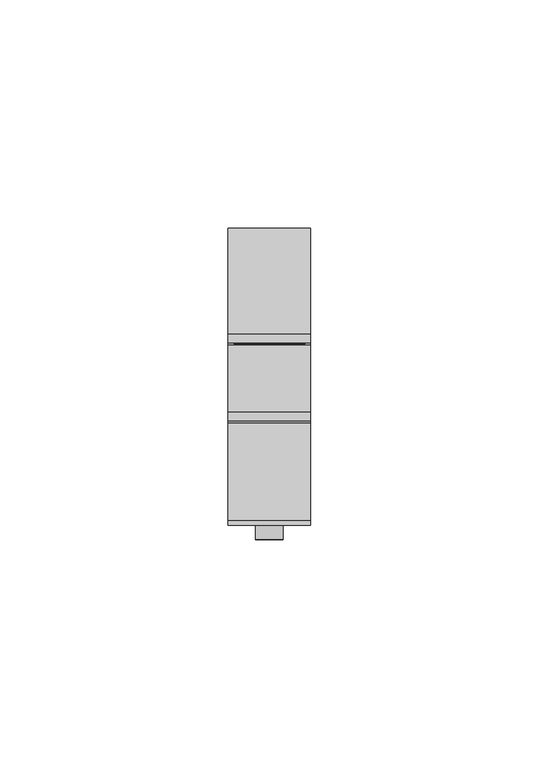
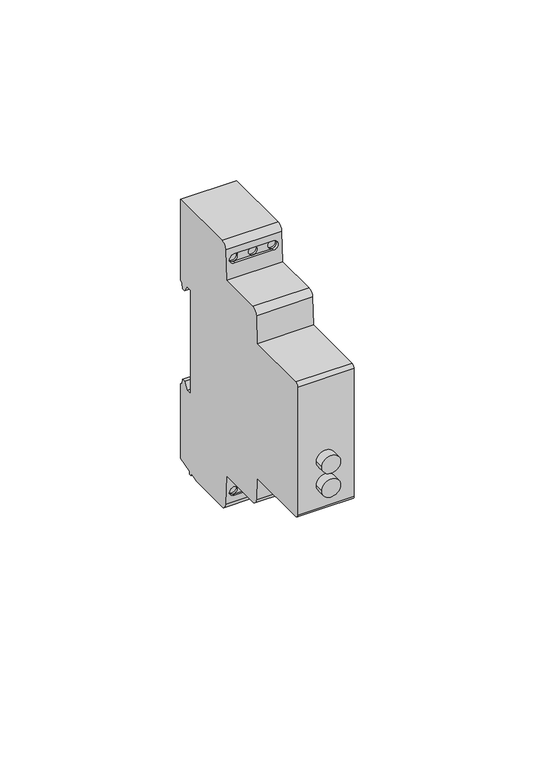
"""IFC4 building model written with IfcOpenShell, lengths in millimetres: proxy geometry, TDM_РЕЛЕ ВРЕМЕНИ НА DIN-РЕЙКУ СЕРИИ РВД : РВД 0.1с/10мин 2х8А 24-230 AC/CD."""

from ifc_helpers import new_model, si_unit, point, frame, frame_2d, origin, place, context, project, spatial, polyline, circle_curve, ellipse_curve, trimmed, segment, composite_curve, outline, extrude, source, transform, mapped, element, save
from ifc_brep_helpers import plane_surface, cylinder_surface, revolved_surface, advanced_brep


def electrical_equipment_de6e29d4(model_context):
    return source(origin(), model_context, "Body", "SolidModel", [
        extrude(outline(composite_curve([segment(trimmed(circle_curve(frame_2d((-6.5006041, 0.0)), 3.0), [point((-6.5006041, -3.0))], [point((-6.5006041, 3.0))], False, "CARTESIAN"), True, "CONTINUOUS"), segment(trimmed(circle_curve(frame_2d((-6.5006041, 0.0)), 3.0), [point((-6.5006041, 3.0))], [point((-6.5006041, -3.0))], False, "CARTESIAN"), True, "CONTINUOUS")], self_intersect=False)), frame((0.0, -30.5593993, 0.0), z_axis=(0.0, 1.0, 0.0), x_axis=(0.0, 0.0, 1.0)), (0.0, 0.0, 1.0), 3.0593993),
        extrude(outline(composite_curve([segment(trimmed(circle_curve(frame_2d((-14.5006041, 0.0)), 3.0), [point((-14.5006041, -3.0))], [point((-14.5006041, 3.0))], False, "CARTESIAN"), True, "CONTINUOUS"), segment(trimmed(circle_curve(frame_2d((-14.5006041, 0.0)), 3.0), [point((-14.5006041, 3.0))], [point((-14.5006041, -3.0))], False, "CARTESIAN"), True, "CONTINUOUS")], self_intersect=False)), frame((0.0, -30.5593993, 0.0), z_axis=(0.0, 1.0, 0.0), x_axis=(0.0, 0.0, 1.0)), (0.0, 0.0, 1.0), 3.0593993),
        extrude(outline(polyline([(7.75, 16.6821204), (7.75, 14.1138713), (-7.75, 14.1138713), (-7.75, 16.6821204), (7.75, 16.6821204)])), frame((0.0, 0.0, -44.0625), z_axis=(0.0, 0.0, 1.0), x_axis=(1.0, 0.0, 0.0)), (0.0, 0.0, 1.0), 87.8126081),
        advanced_brep(
        [(9.0, 31.7632568, 17.7057143), (9.0, 33.7632568, 17.7057143), (9.0, 35.0790621, 15.4266726), (9.0, 36.2042493, 15.4266726), (9.0, 36.5256071, 17.2491835), (9.0, 37.5, 17.8117495), (9.0, 37.5, 45.0), (9.0, 14.5, 45.0), (9.0, 12.5, 43.0), (9.0, 11.9790691, 33.0600462), (9.0, -2.6020709, 33.0600462), (9.0, -4.5993299, 31.1647181), (9.0, -5.0796325, 22.0), (9.0, -26.3777313, 22.0), (9.0, -27.5, 20.8777313), (9.0, -27.5, -22.3875602), (9.0, -26.3875602, -23.5), (9.0, -5.0010208, -23.5), (9.0, -4.5993299, -31.1647181), (9.0, -2.6020709, -33.0600462), (9.0, 11.9790691, -33.0600462), (9.0, 12.5, -43.0), (9.0, 14.5, -45.0), (9.0, 28.5548029, -45.0), (9.0, 31.6319498, -44.175481), (9.0, 31.6319498, -45.0), (9.0, 32.5, -45.0), (9.0, 32.5, -43.9428876), (9.0, 37.5, -42.6031417), (9.0, 37.5, -17.4003208), (9.0, 36.5256071, -16.8377548), (9.0, 36.2042493, -15.0152439), (9.0, 35.0790621, -15.0152439), (9.0, 33.7632568, -17.2942857), (9.0, 31.7632568, -17.2942857), (-9.0, 31.7632568, 17.7057143), (-9.0, 31.7632568, -17.2942857), (-9.0, 33.7632568, -17.2942857), (-9.0, 35.0790621, -15.0152439), (-9.0, 36.2042493, -15.0152439), (-9.0, 36.5256071, -16.8377548), (-9.0, 37.5, -17.4003208), (-9.0, 37.5, -42.6031417), (-9.0, 32.5, -43.9428876), (-9.0, 32.5, -45.0), (-9.0, 31.6319498, -45.0), (-9.0, 31.6319498, -44.175481), (-9.0, 28.5548029, -45.0), (-9.0, 14.5, -45.0), (-9.0, 12.5, -43.0), (-9.0, 11.9790691, -33.0600462), (-9.0, -2.6020709, -33.0600462), (-9.0, -4.5993299, -31.1647181), (-9.0, -5.0010208, -23.5), (-9.0, -26.3875602, -23.5), (-9.0, -27.5, -22.3875602), (-9.0, -27.5, 20.8777313), (-9.0, -26.3777313, 22.0), (-9.0, -5.0796325, 22.0), (-9.0, -4.5993299, 31.1647181), (-9.0, -2.6020709, 33.0600462), (-9.0, 11.9790691, 33.0600462), (-9.0, 12.5, 43.0), (-9.0, 14.5, 45.0), (-9.0, 37.5, 45.0), (-9.0, 37.5, 17.8117495), (-9.0, 36.5256071, 17.2491835), (-9.0, 36.2042493, 15.4266726), (-9.0, 35.0790621, 15.4266726), (-9.0, 33.7632568, 17.7057143), (6.25, 13.0378948, -37.8135116), (0.0239013, 13.0378948, -37.8135116), (1.5239013, 13.0378948, -39.3135116), (0.0239013, 13.0378948, -40.8135116), (6.25, 13.0378948, -40.8135116), (4.75, 13.0378948, -39.3135116), (-6.25, 13.0378948, -37.8135116), (-4.75, 13.0378948, -39.3135116), (-6.25, 13.0378948, -40.8135116), (-1.4760987, 13.0378948, -39.3135116), (6.25, 13.0378948, 40.8135116), (0.0239013, 13.0378948, 40.8135116), (1.5239013, 13.0378948, 39.3135116), (0.0239013, 13.0378948, 37.8135116), (6.25, 13.0378948, 37.8135116), (4.75, 13.0378948, 39.3135116), (-6.25, 13.0378948, 40.8135116), (-4.75, 13.0378948, 39.3135116), (-6.25, 13.0378948, 37.8135116), (-1.4760987, 13.0378948, 39.3135116), (6.25, 12.2281877, 37.8135116), (0.0239013, 12.2281877, 37.8135116), (-6.25, 12.2281877, 37.8135116), (-7.75, 12.3067993, 39.3135116), (-6.25, 12.385411, 40.8135116), (0.0239013, 12.385411, 40.8135116), (6.25, 12.385411, 40.8135116), (7.75, 12.3067993, 39.3135116), (0.0239013, 12.2281877, -37.8135116), (6.25, 12.2281877, -37.8135116), (7.75, 12.3067993, -39.3135116), (6.25, 12.385411, -40.8135116), (0.0239013, 12.385411, -40.8135116), (-6.25, 12.385411, -40.8135116), (-7.75, 12.3067993, -39.3135116), (-6.25, 12.2281877, -37.8135116), (-7.75, 13.0378948, -39.3135116), (7.75, 13.0378948, -39.3135116), (7.75, 13.0378948, 39.3135116), (-7.75, 13.0378948, 39.3135116), (-4.75, 15.2465164, -39.3135116), (-7.75, 15.2465164, -39.3135116), (1.5239013, 15.2465164, -39.3135116), (-1.4760987, 15.2465164, -39.3135116), (4.75, 15.2465164, -39.3135116), (7.75, 15.2465164, -39.3135116), (-4.75, 15.2465164, 39.3135116), (-7.75, 15.2465164, 39.3135116), (1.5239013, 15.2465164, 39.3135116), (-1.4760987, 15.2465164, 39.3135116), (4.75, 15.2465164, 39.3135116), (7.75, 15.2465164, 39.3135116)],
        [
            (0, 1),
            (1, 2),
            (2, 3),
            (3, 4),
            (4, 5),
            (5, 6),
            (6, 7),
            (7, 8, circle_curve(frame((9.0, 14.5, 43.0), z_axis=(1.0, 0.0, 0.0), x_axis=(0.0, -1.0, 0.0)), 2.0)),
            (8, 9),
            (9, 10),
            (10, 11, circle_curve(frame((9.0, -2.6020709, 31.0600462), z_axis=(1.0, 0.0, 0.0), x_axis=(0.0, -1.0, 0.0)), 2.0)),
            (11, 12),
            (12, 13),
            (13, 14, circle_curve(frame((9.0, -26.3777313, 20.8777313), z_axis=(1.0, 0.0, 0.0), x_axis=(0.0, -1.0, 0.0)), 1.1222687)),
            (14, 15),
            (15, 16, circle_curve(frame((9.0, -26.3875602, -22.3875602), z_axis=(1.0, 0.0, 0.0), x_axis=(0.0, -1.0, 0.0)), 1.1124398)),
            (16, 17),
            (17, 18),
            (18, 19, circle_curve(frame((9.0, -2.6020709, -31.0600462), z_axis=(1.0, 0.0, 0.0), x_axis=(0.0, -1.0, 0.0)), 2.0)),
            (19, 20),
            (20, 21),
            (21, 22, circle_curve(frame((9.0, 14.5, -43.0), z_axis=(1.0, 0.0, 0.0), x_axis=(0.0, -1.0, 0.0)), 2.0)),
            (22, 23),
            (23, 24),
            (24, 25),
            (25, 26),
            (26, 27),
            (27, 28),
            (28, 29),
            (29, 30),
            (30, 31),
            (31, 32),
            (32, 33),
            (33, 34),
            (34, 0),
            (35, 36),
            (36, 37),
            (37, 38),
            (38, 39),
            (39, 40),
            (40, 41),
            (41, 42),
            (42, 43),
            (43, 44),
            (44, 45),
            (45, 46),
            (46, 47),
            (47, 48),
            (48, 49, circle_curve(frame((-9.0, 14.5, -43.0), z_axis=(-1.0, 0.0, 0.0), x_axis=(0.0, -1.0, 0.0)), 2.0)),
            (49, 50),
            (50, 51),
            (51, 52, circle_curve(frame((-9.0, -2.6020709, -31.0600462), z_axis=(-1.0, 0.0, 0.0), x_axis=(0.0, -1.0, 0.0)), 2.0)),
            (52, 53),
            (53, 54),
            (54, 55, circle_curve(frame((-9.0, -26.3875602, -22.3875602), z_axis=(-1.0, 0.0, 0.0), x_axis=(0.0, -1.0, 0.0)), 1.1124398)),
            (55, 56),
            (56, 57, circle_curve(frame((-9.0, -26.3777313, 20.8777313), z_axis=(-1.0, 0.0, 0.0), x_axis=(0.0, -1.0, 0.0)), 1.1222687)),
            (57, 58),
            (58, 59),
            (59, 60, circle_curve(frame((-9.0, -2.6020709, 31.0600462), z_axis=(-1.0, 0.0, 0.0), x_axis=(0.0, -1.0, 0.0)), 2.0)),
            (60, 61),
            (61, 62),
            (62, 63, circle_curve(frame((-9.0, 14.5, 43.0), z_axis=(-1.0, 0.0, 0.0), x_axis=(0.0, -1.0, 0.0)), 2.0)),
            (63, 64),
            (64, 65),
            (65, 66),
            (66, 67),
            (67, 68),
            (68, 69),
            (69, 35),
            (70, 71),
            (71, 72, circle_curve(frame((0.0239013, 13.0378948, -39.3135116), z_axis=(0.0, 1.0, 0.0), x_axis=(-1.0, 0.0, 0.0)), 1.5)),
            (72, 73, circle_curve(frame((0.0239013, 13.0378948, -39.3135116), z_axis=(0.0, 1.0, 0.0), x_axis=(-1.0, 0.0, 0.0)), 1.5)),
            (73, 74),
            (74, 75, circle_curve(frame((6.25, 13.0378948, -39.3135116), z_axis=(0.0, 1.0, 0.0), x_axis=(1.0, 0.0, 0.0)), 1.5)),
            (75, 70, circle_curve(frame((6.25, 13.0378948, -39.3135116), z_axis=(0.0, 1.0, 0.0), x_axis=(1.0, 0.0, 0.0)), 1.5)),
            (71, 76),
            (76, 77, circle_curve(frame((-6.25, 13.0378948, -39.3135116), z_axis=(0.0, 1.0, 0.0), x_axis=(-1.0, 0.0, 0.0)), 1.5)),
            (77, 78, circle_curve(frame((-6.25, 13.0378948, -39.3135116), z_axis=(0.0, 1.0, 0.0), x_axis=(-1.0, 0.0, 0.0)), 1.5)),
            (78, 73),
            (73, 79, circle_curve(frame((0.0239013, 13.0378948, -39.3135116), z_axis=(0.0, 1.0, 0.0), x_axis=(-1.0, 0.0, 0.0)), 1.5)),
            (79, 71, circle_curve(frame((0.0239013, 13.0378948, -39.3135116), z_axis=(0.0, 1.0, 0.0), x_axis=(-1.0, 0.0, 0.0)), 1.5)),
            (80, 81),
            (81, 82, circle_curve(frame((0.0239013, 13.0378948, 39.3135116), z_axis=(0.0, 1.0, 0.0), x_axis=(-1.0, 0.0, 0.0)), 1.5)),
            (82, 83, circle_curve(frame((0.0239013, 13.0378948, 39.3135116), z_axis=(0.0, 1.0, 0.0), x_axis=(-1.0, 0.0, 0.0)), 1.5)),
            (83, 84),
            (84, 85, circle_curve(frame((6.25, 13.0378948, 39.3135116), z_axis=(0.0, 1.0, 0.0), x_axis=(1.0, 0.0, 0.0)), 1.5)),
            (85, 80, circle_curve(frame((6.25, 13.0378948, 39.3135116), z_axis=(0.0, 1.0, 0.0), x_axis=(1.0, 0.0, 0.0)), 1.5)),
            (81, 86),
            (86, 87, circle_curve(frame((-6.25, 13.0378948, 39.3135116), z_axis=(0.0, 1.0, 0.0), x_axis=(-1.0, 0.0, 0.0)), 1.5)),
            (87, 88, circle_curve(frame((-6.25, 13.0378948, 39.3135116), z_axis=(0.0, 1.0, 0.0), x_axis=(-1.0, 0.0, 0.0)), 1.5)),
            (88, 83),
            (83, 89, circle_curve(frame((0.0239013, 13.0378948, 39.3135116), z_axis=(0.0, 1.0, 0.0), x_axis=(-1.0, 0.0, 0.0)), 1.5)),
            (89, 81, circle_curve(frame((0.0239013, 13.0378948, 39.3135116), z_axis=(0.0, 1.0, 0.0), x_axis=(-1.0, 0.0, 0.0)), 1.5)),
            (0, 35),
            (69, 1),
            (68, 2),
            (67, 3),
            (66, 4),
            (65, 5),
            (64, 6),
            (63, 7),
            (62, 8),
            (61, 9),
            (90, 91),
            (91, 92),
            (92, 93, ellipse_curve(frame((-6.25, 12.3067993, 39.3135116), z_axis=(0.0, 0.9986295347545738, -0.052335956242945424), x_axis=(0.0, -0.052335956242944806, -0.9986295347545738)), 1.5020585, 1.5)),
            (93, 94, ellipse_curve(frame((-6.25, 12.3067993, 39.3135116), z_axis=(0.0, 0.9986295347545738, -0.052335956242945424), x_axis=(0.0, -0.052335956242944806, -0.9986295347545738)), 1.5020585, 1.5)),
            (94, 95),
            (95, 96),
            (96, 97, ellipse_curve(frame((6.25, 12.3067993, 39.3135116), z_axis=(0.0, 0.9986295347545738, -0.052335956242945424), x_axis=(0.0, -0.052335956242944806, -0.9986295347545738)), 1.5020585, 1.5)),
            (97, 90, ellipse_curve(frame((6.25, 12.3067993, 39.3135116), z_axis=(0.0, 0.9986295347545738, -0.052335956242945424), x_axis=(0.0, -0.052335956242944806, -0.9986295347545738)), 1.5020585, 1.5)),
            (60, 10),
            (59, 11),
            (58, 12),
            (57, 13),
            (56, 14),
            (55, 15),
            (16, 54),
            (53, 17),
            (52, 18),
            (51, 19),
            (50, 20),
            (49, 21),
            (98, 99),
            (99, 100, ellipse_curve(frame((6.25, 12.3067993, -39.3135116), z_axis=(0.0, 0.9986295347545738, 0.05233595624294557), x_axis=(0.0, -0.05233595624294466, 0.9986295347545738)), 1.5020585, 1.5)),
            (100, 101, ellipse_curve(frame((6.25, 12.3067993, -39.3135116), z_axis=(0.0, 0.9986295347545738, 0.05233595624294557), x_axis=(0.0, -0.05233595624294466, 0.9986295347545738)), 1.5020585, 1.5)),
            (101, 102),
            (102, 103),
            (103, 104, ellipse_curve(frame((-6.25, 12.3067993, -39.3135116), z_axis=(0.0, 0.9986295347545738, 0.05233595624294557), x_axis=(0.0, -0.05233595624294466, 0.9986295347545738)), 1.5020585, 1.5)),
            (104, 105, ellipse_curve(frame((-6.25, 12.3067993, -39.3135116), z_axis=(0.0, 0.9986295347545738, 0.05233595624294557), x_axis=(0.0, -0.05233595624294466, 0.9986295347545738)), 1.5020585, 1.5)),
            (105, 98),
            (48, 22),
            (47, 23),
            (25, 45),
            (44, 26),
            (43, 27),
            (46, 24),
            (28, 42),
            (41, 29),
            (40, 30),
            (39, 31),
            (38, 32),
            (37, 33),
            (36, 34),
            (70, 99),
            (105, 76),
            (103, 78),
            (78, 106, circle_curve(frame((-6.25, 13.0378948, -39.3135116), z_axis=(0.0, 1.0, 0.0), x_axis=(-1.0, 0.0, 0.0)), 1.5)),
            (106, 76, circle_curve(frame((-6.25, 13.0378948, -39.3135116), z_axis=(0.0, 1.0, 0.0), x_axis=(-1.0, 0.0, 0.0)), 1.5)),
            (101, 74),
            (70, 107, circle_curve(frame((6.25, 13.0378948, -39.3135116), z_axis=(0.0, 1.0, 0.0), x_axis=(1.0, 0.0, 0.0)), 1.5)),
            (107, 74, circle_curve(frame((6.25, 13.0378948, -39.3135116), z_axis=(0.0, 1.0, 0.0), x_axis=(1.0, 0.0, 0.0)), 1.5)),
            (84, 90),
            (96, 80),
            (80, 108, circle_curve(frame((6.25, 13.0378948, 39.3135116), z_axis=(0.0, 1.0, 0.0), x_axis=(1.0, 0.0, 0.0)), 1.5)),
            (108, 84, circle_curve(frame((6.25, 13.0378948, 39.3135116), z_axis=(0.0, 1.0, 0.0), x_axis=(1.0, 0.0, 0.0)), 1.5)),
            (94, 86),
            (92, 88),
            (88, 109, circle_curve(frame((-6.25, 13.0378948, 39.3135116), z_axis=(0.0, 1.0, 0.0), x_axis=(-1.0, 0.0, 0.0)), 1.5)),
            (109, 86, circle_curve(frame((-6.25, 13.0378948, 39.3135116), z_axis=(0.0, 1.0, 0.0), x_axis=(-1.0, 0.0, 0.0)), 1.5)),
            (110, 111, circle_curve(frame((-6.25, 15.2465164, -39.3135116), z_axis=(0.0, -1.0, 0.0), x_axis=(-1.0, 0.0, 0.0)), 1.5)),
            (111, 110, circle_curve(frame((-6.25, 15.2465164, -39.3135116), z_axis=(0.0, -1.0, 0.0), x_axis=(-1.0, 0.0, 0.0)), 1.5)),
            (112, 113, circle_curve(frame((0.0239013, 15.2465164, -39.3135116), z_axis=(0.0, -1.0, 0.0), x_axis=(-1.0, 0.0, 0.0)), 1.5)),
            (113, 112, circle_curve(frame((0.0239013, 15.2465164, -39.3135116), z_axis=(0.0, -1.0, 0.0), x_axis=(-1.0, 0.0, 0.0)), 1.5)),
            (114, 115, circle_curve(frame((6.25, 15.2465164, -39.3135116), z_axis=(0.0, -1.0, 0.0), x_axis=(1.0, 0.0, 0.0)), 1.5)),
            (115, 114, circle_curve(frame((6.25, 15.2465164, -39.3135116), z_axis=(0.0, -1.0, 0.0), x_axis=(1.0, 0.0, 0.0)), 1.5)),
            (116, 117, circle_curve(frame((-6.25, 15.2465164, 39.3135116), z_axis=(0.0, -1.0, 0.0), x_axis=(-1.0, 0.0, 0.0)), 1.5)),
            (117, 116, circle_curve(frame((-6.25, 15.2465164, 39.3135116), z_axis=(0.0, -1.0, 0.0), x_axis=(-1.0, 0.0, 0.0)), 1.5)),
            (118, 119, circle_curve(frame((0.0239013, 15.2465164, 39.3135116), z_axis=(0.0, -1.0, 0.0), x_axis=(-1.0, 0.0, 0.0)), 1.5)),
            (119, 118, circle_curve(frame((0.0239013, 15.2465164, 39.3135116), z_axis=(0.0, -1.0, 0.0), x_axis=(-1.0, 0.0, 0.0)), 1.5)),
            (120, 121, circle_curve(frame((6.25, 15.2465164, 39.3135116), z_axis=(0.0, -1.0, 0.0), x_axis=(1.0, 0.0, 0.0)), 1.5)),
            (121, 120, circle_curve(frame((6.25, 15.2465164, 39.3135116), z_axis=(0.0, -1.0, 0.0), x_axis=(1.0, 0.0, 0.0)), 1.5)),
            (110, 77),
            (106, 111),
            (112, 72),
            (79, 113),
            (114, 75),
            (107, 115),
            (116, 87),
            (109, 117),
            (118, 82),
            (89, 119),
            (120, 85),
            (108, 121),
        ],
        [
            plane_surface(frame((9.0, 31.7632568, 17.7057143), z_axis=(1.0, 0.0, 0.0), x_axis=(0.0, 1.0, 0.0))),
            plane_surface(frame((-9.0, 31.7632568, 17.7057143), z_axis=(-1.0, 0.0, 0.0), x_axis=(0.0, -1.0, 0.0))),
            plane_surface(frame((-7.75, 13.0378948, -37.8135116), z_axis=(0.0, -1.0, 0.0), x_axis=(1.0, 0.0, 0.0))),
            plane_surface(frame((9.0, 31.7632568, 17.7057143), z_axis=(0.0, 0.0, -1.0), x_axis=(-1.0, 0.0, 0.0))),
            plane_surface(frame((9.0, 33.7632568, 17.7057143), z_axis=(0.0, -0.8660254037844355, -0.5000000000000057), x_axis=(-1.0, 0.0, 0.0))),
            plane_surface(frame((9.0, 35.0790621, 15.4266726), z_axis=(0.0, 0.0, -1.0), x_axis=(-1.0, 0.0, 0.0))),
            plane_surface(frame((9.0, 36.2042493, 15.4266726), z_axis=(0.0, 0.984807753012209, -0.17364817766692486), x_axis=(-1.0, 0.0, 0.0))),
            plane_surface(frame((9.0, 36.5256071, 17.2491835), z_axis=(0.0, 0.5000000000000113, -0.8660254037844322), x_axis=(-1.0, 0.0, 0.0))),
            plane_surface(frame((9.0, 37.5, 17.8117495), z_axis=(0.0, 1.0, 0.0), x_axis=(-1.0, 0.0, 0.0))),
            plane_surface(frame((9.0, 37.5, 45.0), z_axis=(0.0, 0.0, 1.0), x_axis=(-1.0, 0.0, 0.0))),
            cylinder_surface(frame((-9.0, 14.5, 43.0), z_axis=(1.0, 0.0, 0.0), x_axis=(0.0, -1.0, 0.0)), 2.0),
            plane_surface(frame((9.0, 12.5, 43.0), z_axis=(0.0, -0.9986295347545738, 0.052335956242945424), x_axis=(-1.0, 0.0, 0.0))),
            plane_surface(frame((9.0, 11.9790691, 33.0600462), z_axis=(0.0, 0.0, 1.0), x_axis=(-1.0, 0.0, 0.0))),
            cylinder_surface(frame((-9.0, -2.6020709, 31.0600462), z_axis=(1.0, 0.0, 0.0), x_axis=(0.0, -1.0, 0.0)), 2.0),
            plane_surface(frame((9.0, -4.5993299, 31.1647181), z_axis=(0.0, -0.9986295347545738, 0.052335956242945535), x_axis=(-1.0, 0.0, 0.0))),
            plane_surface(frame((9.0, -5.0796325, 22.0), z_axis=(0.0, 0.0, 1.0), x_axis=(-1.0, 0.0, 0.0))),
            cylinder_surface(frame((-9.0, -26.3777313, 20.8777313), z_axis=(1.0, 0.0, 0.0), x_axis=(0.0, -1.0, 0.0)), 1.1222687),
            plane_surface(frame((9.0, -27.5, 20.8777313), z_axis=(0.0, -1.0, 0.0), x_axis=(-1.0, 0.0, 0.0))),
            plane_surface(frame((9.0, -26.3875602, -23.5), z_axis=(0.0, 0.0, -1.0), x_axis=(-1.0, 0.0, 0.0))),
            plane_surface(frame((9.0, -5.0010208, -23.5), z_axis=(0.0, -0.9986295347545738, -0.05233595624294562), x_axis=(-1.0, 0.0, 0.0))),
            cylinder_surface(frame((-9.0, -2.6020709, -31.0600462), z_axis=(1.0, 0.0, 0.0), x_axis=(0.0, -1.0, 0.0)), 2.0),
            plane_surface(frame((9.0, -2.6020709, -33.0600462), z_axis=(0.0, 0.0, -1.0), x_axis=(-1.0, 0.0, 0.0))),
            plane_surface(frame((9.0, 11.9790691, -33.0600462), z_axis=(0.0, -0.9986295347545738, -0.05233595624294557), x_axis=(-1.0, 0.0, 0.0))),
            cylinder_surface(frame((-9.0, 14.5, -43.0), z_axis=(1.0, 0.0, 0.0), x_axis=(0.0, -1.0, 0.0)), 2.0),
            plane_surface(frame((9.0, 14.5, -45.0), z_axis=(0.0, 0.0, -1.0), x_axis=(-1.0, 0.0, 0.0))),
            plane_surface(frame((9.0, 31.6319498, -45.0), z_axis=(0.0, 0.0, -1.0), x_axis=(-1.0, 0.0, 0.0))),
            plane_surface(frame((9.0, 32.5, -45.0), z_axis=(0.0, 1.0, 0.0), x_axis=(-1.0, 0.0, 0.0))),
            plane_surface(frame((9.0, 28.5548029, -45.0), z_axis=(0.0, 0.2588190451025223, -0.965925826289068), x_axis=(-1.0, 0.0, 0.0))),
            plane_surface(frame((9.0, 37.5, -42.6031417), z_axis=(0.0, 1.0, 0.0), x_axis=(-1.0, 0.0, 0.0))),
            plane_surface(frame((9.0, 37.5, -17.4003208), z_axis=(0.0, 0.5000000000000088, 0.8660254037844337), x_axis=(-1.0, 0.0, 0.0))),
            plane_surface(frame((9.0, 36.5256071, -16.8377548), z_axis=(0.0, 0.9848077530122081, 0.17364817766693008), x_axis=(-1.0, 0.0, 0.0))),
            plane_surface(frame((9.0, 36.2042493, -15.0152439), z_axis=(0.0, 0.0, 1.0), x_axis=(-1.0, 0.0, 0.0))),
            plane_surface(frame((9.0, 35.0790621, -15.0152439), z_axis=(0.0, -0.8660254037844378, 0.5000000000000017), x_axis=(-1.0, 0.0, 0.0))),
            plane_surface(frame((9.0, 33.7632568, -17.2942857), z_axis=(0.0, 0.0, 1.0), x_axis=(-1.0, 0.0, 0.0))),
            plane_surface(frame((9.0, 31.7632568, -17.2942857), z_axis=(0.0, 1.0, 0.0), x_axis=(-1.0, 0.0, 0.0))),
            cylinder_surface(frame((-9.0, -26.3875602, -22.3875602), z_axis=(1.0, 0.0, 0.0), x_axis=(0.0, -1.0, 0.0)), 1.1124398),
            plane_surface(frame((6.25, 0.0, -37.8135116), z_axis=(0.0, 0.0, -1.0), x_axis=(0.0, 1.0, 0.0))),
            revolved_surface(polyline([(-7.75, 12.228187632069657, -39.3135116), (-7.75, 13.0378948, -39.3135116)]), (-6.25, 13.0378948, -39.3135116), (0.0, -1.0, 0.0)),
            plane_surface(frame((-6.25, 0.0, -40.8135116), z_axis=(0.0, 0.0, 1.0), x_axis=(0.0, 1.0, 0.0))),
            revolved_surface(polyline([(7.75, 12.228187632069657, -39.3135116), (7.75, 13.0378948, -39.3135116)]), (6.25, 13.0378948, -39.3135116), (0.0, -1.0, 0.0)),
            revolved_surface(polyline([(7.75, 12.228187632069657, 39.3135116), (7.75, 13.0378948, 39.3135116)]), (6.25, 0.0, 39.3135116), (0.0, -1.0, 0.0)),
            plane_surface(frame((6.25, 0.0, 40.8135116), z_axis=(0.0, 0.0, -1.0), x_axis=(0.0, 1.0, 0.0))),
            revolved_surface(polyline([(-7.75, 12.228187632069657, 39.3135116), (-7.75, 13.0378948, 39.3135116)]), (-6.25, 0.0, 39.3135116), (0.0, -1.0, 0.0)),
            plane_surface(frame((-6.25, 0.0, 37.8135116), z_axis=(0.0, 0.0, 1.0), x_axis=(0.0, 1.0, 0.0))),
            plane_surface(frame((-7.75, 15.2465164, -39.3135116), z_axis=(0.0, -1.0, 0.0), x_axis=(0.0, 0.0, 1.0))),
            revolved_surface(polyline([(-7.75, 13.0378948, -39.3135116), (-7.75, 15.2465164, -39.3135116)]), (-6.25, 15.2465164, -39.3135116), (0.0, -1.0, 0.0)),
            revolved_surface(polyline([(-1.4760987, 13.0378948, -39.3135116), (-1.4760987, 15.2465164, -39.3135116)]), (0.0239013, 0.0, -39.3135116), (0.0, -1.0, 0.0)),
            revolved_surface(polyline([(7.75, 13.0378948, -39.3135116), (7.75, 15.2465164, -39.3135116)]), (6.25, 0.0, -39.3135116), (0.0, -1.0, 0.0)),
            revolved_surface(polyline([(-7.75, 13.0378948, 39.3135116), (-7.75, 15.2465164, 39.3135116)]), (-6.25, 0.0, 39.3135116), (0.0, -1.0, 0.0)),
            revolved_surface(polyline([(-1.4760987, 13.0378948, 39.3135116), (-1.4760987, 15.2465164, 39.3135116)]), (0.0239013, 0.0, 39.3135116), (0.0, -1.0, 0.0)),
            revolved_surface(polyline([(7.75, 13.0378948, 39.3135116), (7.75, 15.2465164, 39.3135116)]), (6.25, 0.0, 39.3135116), (0.0, -1.0, 0.0)),
            plane_surface(frame((9.0, 31.6319498, -44.175481), z_axis=(0.0, -1.0, 0.0), x_axis=(-1.0, 0.0, 0.0))),
            plane_surface(frame((9.0, 32.5, -43.9428876), z_axis=(0.0, 0.2588190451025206, -0.9659258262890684), x_axis=(-1.0, 0.0, 0.0))),
        ],
        [
            (0, [[1, 2, 3, 4, 5, 6, 7, 8, 9, 10, 11, 12, 13, 14, 15, 16, 17, 18, 19, 20, 21, 22, 23, 24, 25, 26, 27, 28, 29, 30, 31, 32, 33, 34, 35]]),
            (1, [[36, 37, 38, 39, 40, 41, 42, 43, 44, 45, 46, 47, 48, 49, 50, 51, 52, 53, 54, 55, 56, 57, 58, 59, 60, 61, 62, 63, 64, 65, 66, 67, 68, 69, 70]]),
            (2, [[71, 72, 73, 74, 75, 76]]),
            (2, [[77, 78, 79, 80, 81, 82]]),
            (2, [[83, 84, 85, 86, 87, 88]]),
            (2, [[89, 90, 91, 92, 93, 94]]),
            (3, [[-1, 95, -70, 96]]),
            (4, [[-2, -96, -69, 97]]),
            (5, [[-3, -97, -68, 98]]),
            (6, [[-4, -98, -67, 99]]),
            (7, [[-5, -99, -66, 100]]),
            (8, [[-6, -100, -65, 101]]),
            (9, [[-7, -101, -64, 102]]),
            (10, [[-8, -102, -63, 103]]),
            (11, [[-9, -103, -62, 104], [105, 106, 107, 108, 109, 110, 111, 112]]),
            (12, [[-10, -104, -61, 113]]),
            (13, [[-11, -113, -60, 114]]),
            (14, [[-12, -114, -59, 115]]),
            (15, [[-13, -115, -58, 116]]),
            (16, [[-14, -116, -57, 117]]),
            (17, [[-15, -117, -56, 118]]),
            (18, [[-17, 119, -54, 120]]),
            (19, [[-18, -120, -53, 121]]),
            (20, [[-19, -121, -52, 122]]),
            (21, [[-20, -122, -51, 123]]),
            (22, [[-21, -123, -50, 124], [125, 126, 127, 128, 129, 130, 131, 132]]),
            (23, [[-22, -124, -49, 133]]),
            (24, [[-23, -133, -48, 134]]),
            (25, [[-26, 135, -45, 136]]),
            (26, [[-27, -136, -44, 137]]),
            (27, [[-24, -134, -47, 138]]),
            (28, [[-29, 139, -42, 140]]),
            (29, [[-30, -140, -41, 141]]),
            (30, [[-31, -141, -40, 142]]),
            (31, [[-32, -142, -39, 143]]),
            (32, [[-33, -143, -38, 144]]),
            (33, [[-34, -144, -37, 145]]),
            (34, [[-35, -145, -36, -95]]),
            (35, [[-16, -118, -55, -119]]),
            (36, [[146, -125, -132, 147, -77, -71]]),
            (37, [[-147, -131, -130, 148, 149, 150]]),
            (38, [[-148, -129, -128, 151, -74, -80]]),
            (39, [[-146, 152, 153, -151, -127, -126]]),
            (40, [[154, -112, -111, 155, 156, 157]]),
            (41, [[-155, -110, -109, 158, -89, -83]]),
            (42, [[-158, -108, -107, 159, 160, 161]]),
            (43, [[-154, -86, -92, -159, -106, -105]]),
            (44, [[162, 163]]),
            (44, [[164, 165]]),
            (44, [[166, 167]]),
            (44, [[168, 169]]),
            (44, [[170, 171]]),
            (44, [[172, 173]]),
            (45, [[-162, 174, -78, -150, 175]]),
            (45, [[-163, -175, -149, -79, -174]]),
            (46, [[-164, 176, -72, -82, 177]]),
            (46, [[-165, -177, -81, -73, -176]]),
            (47, [[-166, 178, -75, -153, 179]]),
            (47, [[-167, -179, -152, -76, -178]]),
            (48, [[-168, 180, -90, -161, 181]]),
            (48, [[-169, -181, -160, -91, -180]]),
            (49, [[-170, 182, -84, -94, 183]]),
            (49, [[-171, -183, -93, -85, -182]]),
            (50, [[-172, 184, -87, -157, 185]]),
            (50, [[-173, -185, -156, -88, -184]]),
            (51, [[-25, -138, -46, -135]]),
            (52, [[-28, -137, -43, -139]]),
        ],
    ),
    ])


if __name__ == "__main__":
    model = new_model("IFC4")
    model_context = context("Model", 3, world=origin())
    ifc_project = project(units=[si_unit("LENGTHUNIT", "METRE", prefix="MILLI")], contexts=[model_context])
    site = spatial("IfcSite", under=ifc_project)
    building = spatial("IfcBuilding", under=site)
    placement = place(None, origin())
    electrical_equipment_shape = electrical_equipment_de6e29d4(model_context)
    element("IfcBuildingElementProxy", 1, Name="TDM_РЕЛЕ ВРЕМЕНИ НА DIN-РЕЙКУ СЕРИИ РВД : РВД 0.1с/10мин 2х8А 24-230 AC/CD", ObjectType="TDM_РЕЛЕ ВРЕМЕНИ НА DIN-РЕЙКУ СЕРИИ РВД : РВД 0.1с/10мин 2х8А 24-230 AC/CD", at=placement, inside=building, context=model_context, shape_type="MappedRepresentation", body=[
        mapped(electrical_equipment_shape, transform((0.0, 0.0, 0.0), x_axis=(1.0, 0.0, 0.0), y_axis=(0.0, 1.0, 0.0), z_axis=(0.0, 0.0, 1.0))),
    ])
    save(model, "model.ifc")
